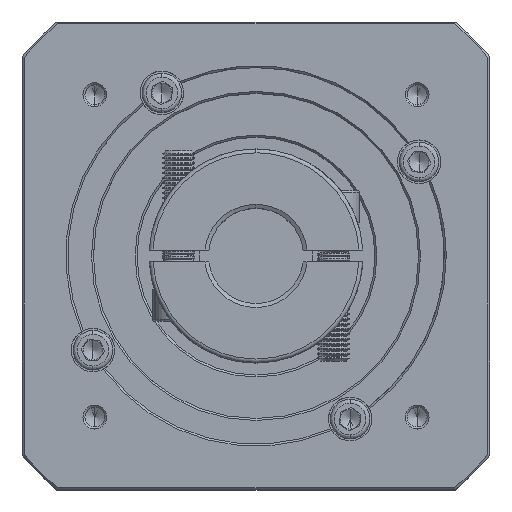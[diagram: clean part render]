
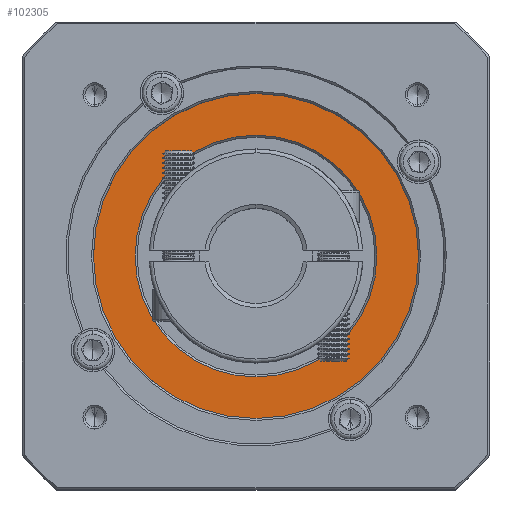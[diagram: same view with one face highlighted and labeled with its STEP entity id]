
A CAD part, top view. The second image highlights one B-rep face of the part: STEP entity #102305.
In plain terms, the highlighted planar face has unit normal (0, 0, 1).
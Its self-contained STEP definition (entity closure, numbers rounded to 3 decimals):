
#4528 = ORIENTED_EDGE ( 'NONE', *, *, #133264, .T. ) ;
#6459 = CARTESIAN_POINT ( 'NONE',  ( 49.409, 57.052, -32.414 ) ) ;
#13160 = CIRCLE ( 'NONE', #76569, 41. ) ;
#13400 = FACE_BOUND ( 'NONE', #90587, .T. ) ;
#26851 = AXIS2_PLACEMENT_3D ( 'NONE', #122429, #37846, #57404 ) ;
#28505 = EDGE_CURVE ( 'NONE', #67882, #118518, #32064, .T. ) ;
#32064 = CIRCLE ( 'NONE', #132265, 30.5 ) ;
#33421 = CIRCLE ( 'NONE', #26851, 30.5 ) ;
#37846 = DIRECTION ( 'NONE',  ( 0., 0., -1. ) ) ;
#38231 = DIRECTION ( 'NONE',  ( 0., 0., 1. ) ) ;
#40199 = FACE_OUTER_BOUND ( 'NONE', #116748, .T. ) ;
#41626 = VERTEX_POINT ( 'NONE', #80807 ) ;
#49387 = DIRECTION ( 'NONE',  ( 0., 0., -1. ) ) ;
#51659 = DIRECTION ( 'NONE',  ( 0., 0., 1. ) ) ;
#54603 = AXIS2_PLACEMENT_3D ( 'NONE', #126939, #51659, #95607 ) ;
#57404 = DIRECTION ( 'NONE',  ( 0., 1., 0. ) ) ;
#59289 = DIRECTION ( 'NONE',  ( 0., 0., 1. ) ) ;
#61154 = CARTESIAN_POINT ( 'NONE',  ( 49.409, 87.552, -32.414 ) ) ;
#62466 = ORIENTED_EDGE ( 'NONE', *, *, #84901, .T. ) ;
#63245 = ORIENTED_EDGE ( 'NONE', *, *, #28505, .T. ) ;
#67882 = VERTEX_POINT ( 'NONE', #61154 ) ;
#70324 = VERTEX_POINT ( 'NONE', #96182 ) ;
#70990 = CARTESIAN_POINT ( 'NONE',  ( 49.409, 57.052, -32.414 ) ) ;
#76569 = AXIS2_PLACEMENT_3D ( 'NONE', #102690, #38231, #93291 ) ;
#80807 = CARTESIAN_POINT ( 'NONE',  ( 49.409, 98.052, -32.414 ) ) ;
#84231 = EDGE_CURVE ( 'NONE', #118518, #67882, #33421, .T. ) ;
#84901 = EDGE_CURVE ( 'NONE', #41626, #70324, #123330, .T. ) ;
#90587 = EDGE_LOOP ( 'NONE', ( #63245, #112404 ) ) ;
#93291 = DIRECTION ( 'NONE',  ( 0., 1., 0. ) ) ;
#95607 = DIRECTION ( 'NONE',  ( 0., 1., 0. ) ) ;
#96182 = CARTESIAN_POINT ( 'NONE',  ( 49.409, 16.052, -32.414 ) ) ;
#102305 = ADVANCED_FACE ( 'NONE', ( #40199, #13400 ), #113540, .T. ) ;
#102690 = CARTESIAN_POINT ( 'NONE',  ( 49.409, 57.052, -32.414 ) ) ;
#112404 = ORIENTED_EDGE ( 'NONE', *, *, #84231, .T. ) ;
#113540 = PLANE ( 'NONE',  #130551 ) ;
#116748 = EDGE_LOOP ( 'NONE', ( #62466, #4528 ) ) ;
#118518 = VERTEX_POINT ( 'NONE', #131716 ) ;
#122429 = CARTESIAN_POINT ( 'NONE',  ( 49.409, 57.052, -32.414 ) ) ;
#123330 = CIRCLE ( 'NONE', #54603, 41. ) ;
#123348 = DIRECTION ( 'NONE',  ( 0., 1., 0. ) ) ;
#126939 = CARTESIAN_POINT ( 'NONE',  ( 49.409, 57.052, -32.414 ) ) ;
#130551 = AXIS2_PLACEMENT_3D ( 'NONE', #70990, #59289, #123348 ) ;
#131716 = CARTESIAN_POINT ( 'NONE',  ( 49.409, 26.552, -32.414 ) ) ;
#132265 = AXIS2_PLACEMENT_3D ( 'NONE', #6459, #49387, #134471 ) ;
#133264 = EDGE_CURVE ( 'NONE', #70324, #41626, #13160, .T. ) ;
#134471 = DIRECTION ( 'NONE',  ( 0., 1., 0. ) ) ;
